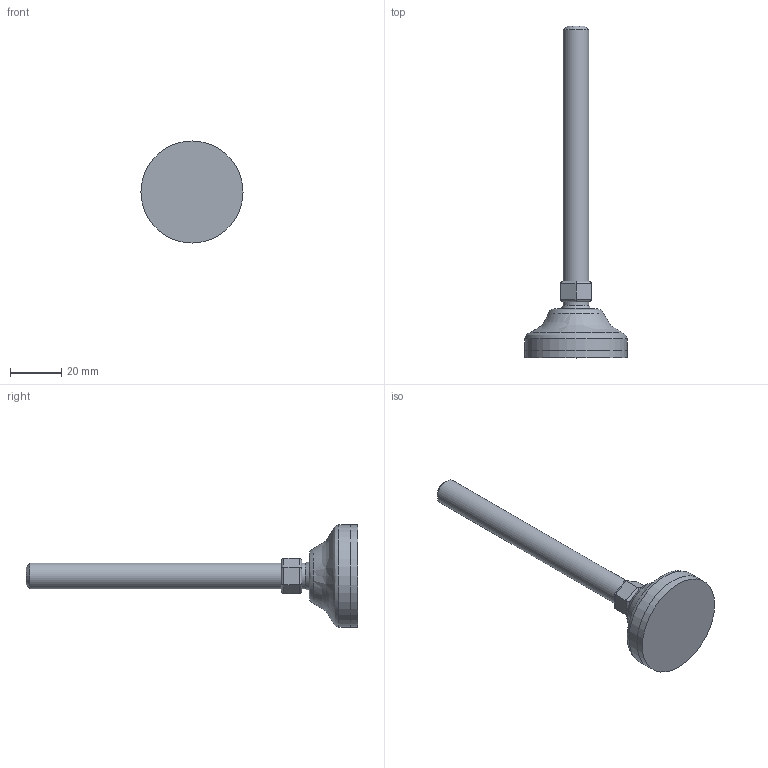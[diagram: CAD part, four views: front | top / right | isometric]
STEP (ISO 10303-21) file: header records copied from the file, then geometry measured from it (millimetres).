
FILE_DESCRIPTION(('STEP AP203'),'2;1');
FILE_NAME('10235.stp','2014-05-02T09:20:32',(''),(''),'2008.1.107','THINKDESIGN','');
FILE_SCHEMA(('CONFIG_CONTROL_DESIGN'));
Length unit declared in the file: millimetre
Bounding box: 40 x 130 x 40 mm (x, y, z)
Volume: 26129 mm3; surface area: 10572.8 mm2
Topology: 5 solids, 5 shells, 37 faces, 77 edges, 50 vertices
Faces by surface type: plane 16, cylinder 16, bspline 5
Full cylindrical faces by diameter (mm): 10 x1, 10.163 x1, 39.997 x2
Entity records: 1298 total; most frequent: CARTESIAN_POINT 431, DIRECTION 159, ORIENTED_EDGE 154, EDGE_CURVE 77, AXIS2_PLACEMENT_3D 62, VERTEX_POINT 50, EDGE_LOOP 37, FACE_OUTER_BOUND 37
